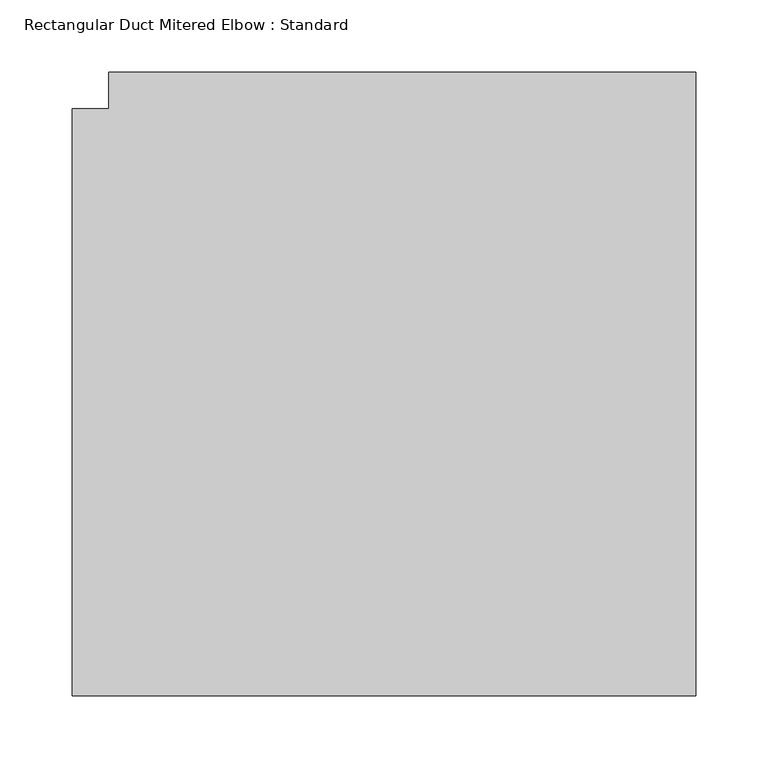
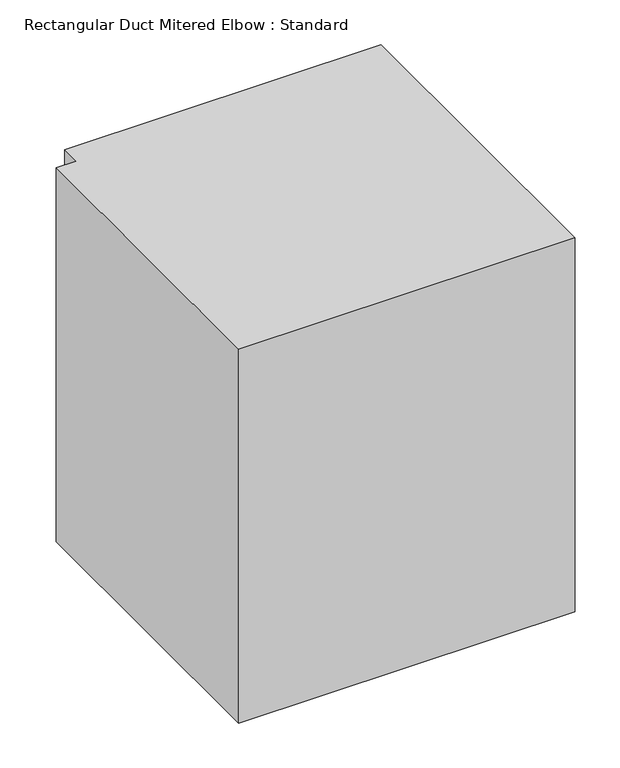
"""IFC4 building model written with IfcOpenShell, lengths in millimetres: duct fitting geometry, Rectangular Duct Mitered Elbow : Standard."""

from ifc_helpers import new_model, si_unit, frame, origin, place, context, project, spatial, polyline, outline, extrude, source, transform, mapped, element, save


def rectangular_duct_mitered_elbow_standard_baa8b5a4(model_context):
    return source(origin(), model_context, "Body", "SweptSolid", [
        extrude(outline(polyline([(-228.6, -203.2), (-228.6, 203.2), (-203.2, 203.2), (-203.2, 228.6), (203.2, 228.6), (203.2, -203.2), (-228.6, -203.2)])), frame((0.0, 0.0, -254.0), z_axis=(0.0, 0.0, 1.0), x_axis=(1.0, 0.0, 0.0)), (0.0, 0.0, 1.0), 508.0),
        extrude(outline(polyline([(-228.6, -203.2), (-228.6, 203.2), (-203.2, 203.2), (-203.2, 228.6), (203.2, 228.6), (203.2, -203.2), (-228.6, -203.2)])), frame((0.0, 0.0, -254.0), z_axis=(0.0, 0.0, 1.0), x_axis=(1.0, 0.0, 0.0)), (0.0, 0.0, 1.0), 508.0),
        extrude(outline(polyline([(-228.6, -203.2), (-228.6, 203.2), (-203.2, 203.2), (-203.2, 228.6), (203.2, 228.6), (203.2, -203.2), (-228.6, -203.2)])), frame((0.0, 0.0, -254.0), z_axis=(0.0, 0.0, 1.0), x_axis=(1.0, 0.0, 0.0)), (0.0, 0.0, 1.0), 508.0),
    ])


if __name__ == "__main__":
    model = new_model("IFC4")
    model_context = context("Model", 3, world=origin())
    ifc_project = project(units=[si_unit("LENGTHUNIT", "METRE", prefix="MILLI")], contexts=[model_context])
    site = spatial("IfcSite", under=ifc_project)
    building = spatial("IfcBuilding", under=site)
    placement = place(None, origin())
    rectangular_duct_mitered_elbow_standard_shape = rectangular_duct_mitered_elbow_standard_baa8b5a4(model_context)
    element("IfcDuctFitting", 1, ObjectType="Rectangular Duct Mitered Elbow : Standard", at=placement, inside=building, context=model_context, shape_type="MappedRepresentation", body=[
        mapped(rectangular_duct_mitered_elbow_standard_shape, transform((0.0, 0.0, 0.0), x_axis=(1.0, 0.0, 0.0), y_axis=(0.0, 1.0, 0.0), z_axis=(0.0, 0.0, 1.0))),
    ])
    save(model, "model.ifc")
